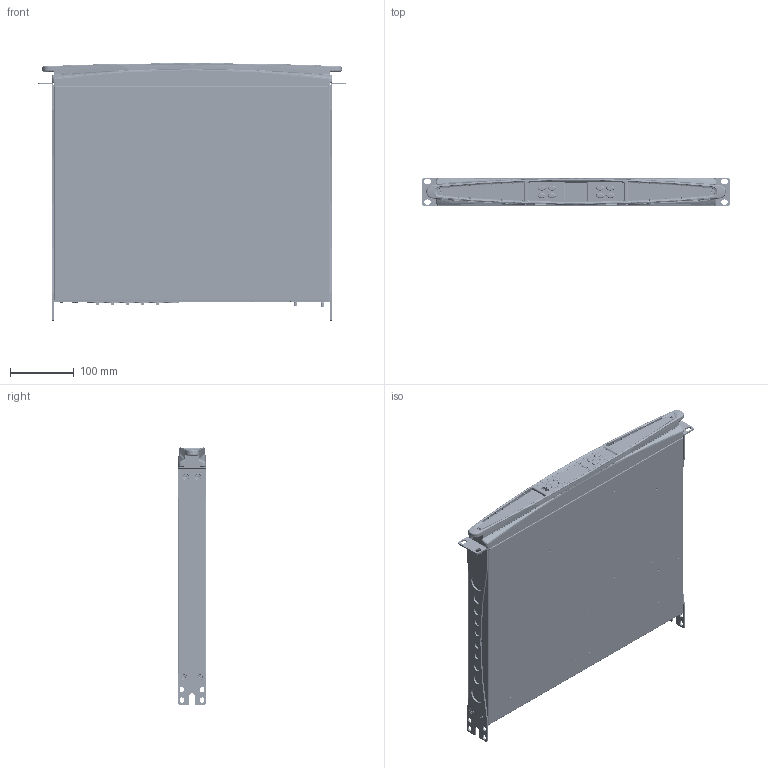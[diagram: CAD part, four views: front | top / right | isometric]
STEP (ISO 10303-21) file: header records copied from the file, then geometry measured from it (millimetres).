
FILE_DESCRIPTION(/* description */ ('Unknown'),/* implementation_level */ '2;1');
FILE_NAME(/* name */ 'SerieT',/* time_stamp */ '2025-05-06T10:47:53+02:00',/* author */ ('Unknown'),/* organization */ ('Unknown'),/* preprocessor_version */ 'ST-DEVELOPER v19.4',/* originating_system */ 'Solid Edge',/* authorisation */ 'Unknown');
FILE_SCHEMA (('AUTOMOTIVE_DESIGN {1 0 10303 214 3 1 1}'));
Products named in the file (39): Assieme T-SERIES_SEMPLIFICATO; VI000289-SCR AUTOFIL 2.9x9.5 TB TX ZN BLACK ISO14585C; ET000783.02; ME001400.00.03; ET000700.02; VI000225-SCR TSP M4x8  TORX A2 ISO14581; ME001249.01.01; VI000137; VI000426 - SCW M3x8 BOSSARD BN20146 TESTA RIBASS TORX A2; SM000000.00.00 Assemblaggio Frontale_SEMPLIFICATO; ET000701.01; FR000003.01 Preassemblaggio Tastiera_SEMPLIFICATO; ME001330.00.02; ME001331.00.02; ME001339.00.00; PC000249; FLAT; AREA UTILE TFT; CORNICE TFT; CORPO TFT; ME001329.00.01; GU000xxx.RD R00 chiusura; FI000033.00.01; ME001328.00.01; ET000887.00; ME001332.00.08; ET000788.01.00; ET000740.01.00; GU000xxx.RD R00 quadro centrale; ET000858.00 Pellicola protettiva LCD; GU000126.00 R00; ME001250.01.01; WWW; D-NL4MP-UC; D-NC3FAAH2; GU000120 DO-TPE 19; ME001378.01.03 Base Assemblata_oa_0; ME001248.01.03; ML000016
Assembly tree (84 placements, depth 5):
  Assieme T-SERIES_SEMPLIFICATO
    VI000289-SCR AUTOFIL 2.9x9.5 TB TX ZN BLACK ISO14585C  x15
    ET000783.02
    ME001400.00.03
    ET000700.02
    VI000225-SCR TSP M4x8  TORX A2 ISO14581  x10
    ME001249.01.01
    VI000137  x2
    VI000426 - SCW M3x8 BOSSARD BN20146 TESTA RIBASS TORX A2  x2
    SM000000.00.00 Assemblaggio Frontale_SEMPLIFICATO
      ET000701.01
      FR000003.01 Preassemblaggio Tastiera_SEMPLIFICATO
        ME001330.00.02
        ME001331.00.02  x2
        ME001339.00.00
        PC000249
          FLAT
          AREA UTILE TFT
          CORNICE TFT
          CORPO TFT
        ME001329.00.01
      GU000xxx.RD R00 chiusura
      FI000033.00.01  x2
      VI000426 - SCW M3x8 BOSSARD BN20146 TESTA RIBASS TORX A2  x6
      ME001328.00.01  x2
      ET000887.00  x2
      ME001332.00.08
      ET000788.01.00
      ET000740.01.00
      GU000xxx.RD R00 quadro centrale
      ET000858.00 Pellicola protettiva LCD
    GU000126.00 R00
    ME001250.01.01  x2
    WWW
    D-NL4MP-UC  x2
    D-NC3FAAH2  x5
    GU000120 DO-TPE 19
    ME001378.01.03 Base Assemblata_oa_0
      ME001248.01.03
      ML000016  x6
Bounding box: 483.7 x 44.05 x 404.51 mm (x, y, z)
Volume: 799138.3 mm3; surface area: 1133801.7 mm2
Topology: 80 solids, 80 shells, 12779 faces, 32476 edges, 19978 vertices
Faces by surface type: plane 5316, cylinder 2866, bspline 2289, torus 1278, cone 726, sphere 304
Full cylindrical faces by diameter (mm): 0.1 x1, 1.2 x12, 1.6 x24, 2 x1, 2.075 x1, 2.3 x2, 2.35 x12, 2.459 x40, 2.5 x22, 2.9 x15, 3 x38, 3.2 x9, 3.242 x10, 3.5 x2, 3.531 x10, 3.6 x4, 4 x23, 4.2 x16, 4.3 x1, 4.4 x3, 4.5 x6, 5 x8, 5.39 x4, 5.4 x4, 5.6 x15, 6 x28, 6.3 x3, 6.5 x2, 7 x2, 8 x8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
Entity records: 322285 total; most frequent: CARTESIAN_POINT 86844, ORIENTED_EDGE 44248, DIRECTION 40763, EDGE_CURVE 22124, AXIS2_PLACEMENT_3D 15859, VERTEX_POINT 13711, FACE_BOUND 10371, EDGE_LOOP 10358
